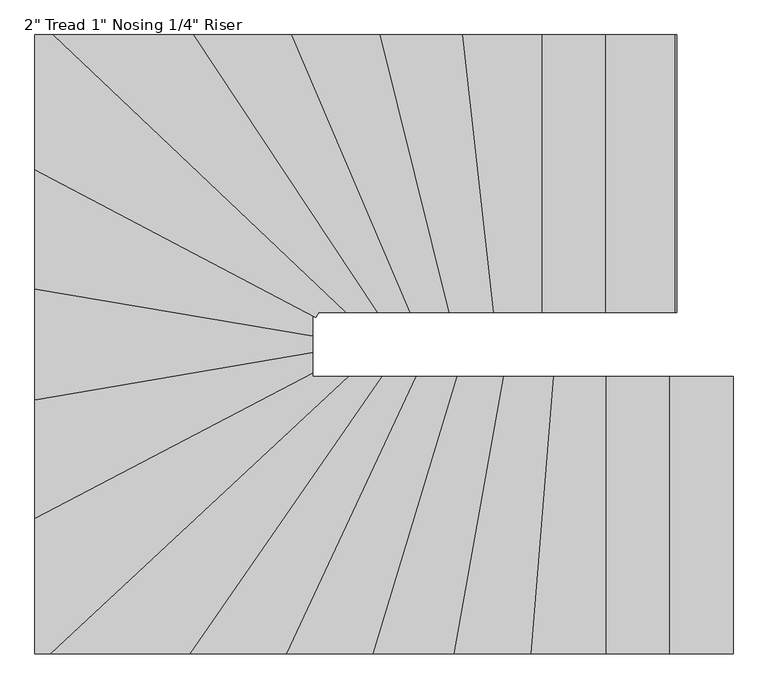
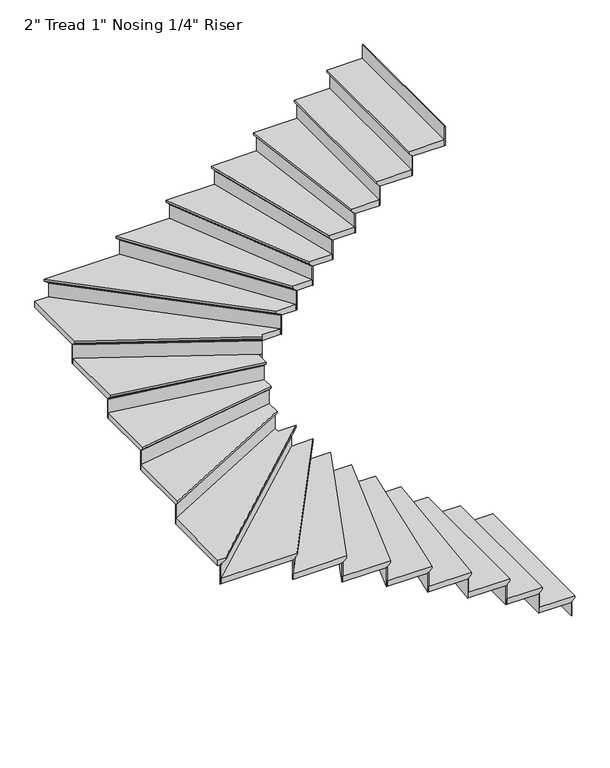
"""IFC4 building model written with IfcOpenShell, lengths in millimetres: stair flight geometry."""

from ifc_helpers import new_model, si_unit, origin, place, context, project, spatial, faceted_brep, source, transform, mapped, element, save


def stair_flight_de9e9dea(model_context):
    return source(origin(), model_context, "Body", "Brep", [
        faceted_brep([(10997.6353862, 7784.3648319, 155.1214286), (10997.6353862, 7784.3648319, 174.1714286), (10997.6353862, 6565.1648319, 174.1714286), (10997.6353862, 6565.1648319, 155.1214286), (10972.2353862, 7784.3648319, 129.7214286), (10972.2353862, 6565.1648319, 129.7214286), (10692.8353862, 7784.3648319, 174.1714286), (10692.8353862, 6565.1648319, 174.1714286), (10972.2353862, 6565.1648319, 123.3714286), (10692.8353862, 6565.1648319, 123.3714286), (10692.8353862, 7784.3648319, 123.3714286), (10972.2353862, 7784.3648319, 123.3714286)], [[[0, 1, 2, 3]], [[4, 0, 3, 5]], [[2, 1, 6, 7]], [[8, 9, 10, 11]], [[2, 7, 9, 8, 5, 3]], [[8, 11, 4, 5]], [[6, 1, 0, 4, 11, 10]], [[7, 6, 10, 9]]]),
        faceted_brep([(10972.2353862, 7784.3648319, 123.3714286), (10972.2353862, 7784.3648319, 0.0), (10965.8853862, 7784.3648319, 0.0), (10965.8853862, 7784.3648319, 123.3714286), (10972.2353862, 6565.1648319, 123.3714286), (10965.8853862, 6565.1648319, 123.3714286), (10965.8853862, 6565.1648319, 0.0), (10972.2353862, 6565.1648319, 0.0)], [[[0, 1, 2, 3]], [[4, 5, 6, 7]], [[1, 0, 4, 7]], [[2, 1, 7, 6]], [[3, 2, 6, 5]], [[0, 3, 5, 4]]]),
        faceted_brep([(10692.8353862, 7784.3648319, 297.5428571), (10692.8353862, 7784.3648319, 123.3714286), (10686.4853862, 7784.3648319, 123.3714286), (10686.4853862, 7784.3648319, 297.5428571), (10692.8353862, 6565.1648319, 297.5428571), (10686.4853862, 6565.1648319, 297.5428571), (10686.4853862, 6565.1648319, 123.3714286), (10692.8353862, 6565.1648319, 123.3714286)], [[[0, 1, 2, 3]], [[4, 5, 6, 7]], [[1, 0, 4, 7]], [[2, 1, 7, 6]], [[3, 2, 6, 5]], [[0, 3, 5, 4]]]),
        faceted_brep([(10718.2353862, 6565.1648319, 348.3428571), (10718.2353862, 7784.3648319, 348.3428571), (10413.4353862, 7784.3648319, 348.3428571), (10413.4353862, 6565.1648319, 348.3428571), (10692.8353862, 6565.1648319, 297.5428571), (10413.4353862, 6565.1648319, 297.5428571), (10413.4353862, 7784.3648319, 297.5428571), (10692.8353862, 7784.3648319, 297.5428571), (10692.8353862, 6565.1648319, 303.8928571), (10718.2353862, 6565.1648319, 329.2928571), (10692.8353862, 7784.3648319, 303.8928571), (10718.2353862, 7784.3648319, 329.2928571)], [[[0, 1, 2, 3]], [[4, 5, 6, 7]], [[0, 3, 5, 4, 8, 9]], [[4, 7, 10, 8]], [[2, 1, 11, 10, 7, 6]], [[3, 2, 6, 5]], [[11, 1, 0, 9]], [[10, 11, 9, 8]]]),
        faceted_brep([(10413.4353862, 7784.3648319, 471.7142857), (10413.4353862, 7784.3648319, 297.5428571), (10407.0853862, 7784.3648319, 297.5428571), (10407.0853862, 7784.3648319, 471.7142857), (10413.4353862, 6565.1648319, 471.7142857), (10407.0853862, 6565.1648319, 471.7142857), (10407.0853862, 6565.1648319, 297.5428571), (10413.4353862, 6565.1648319, 297.5428571)], [[[0, 1, 2, 3]], [[4, 5, 6, 7]], [[1, 0, 4, 7]], [[2, 1, 7, 6]], [[3, 2, 6, 5]], [[0, 3, 5, 4]]]),
        faceted_brep([(10438.8353862, 6565.1648319, 522.5142857), (10438.8353862, 7784.3648319, 522.5142857), (10182.7608997, 7784.3648319, 522.5142857), (10085.1473141, 6565.1648319, 522.5142857), (10413.4353862, 6565.1648319, 471.7142857), (10085.1473141, 6565.1648319, 471.7142857), (10182.7608997, 7784.3648319, 471.7142857), (10413.4353862, 7784.3648319, 471.7142857), (10413.4353862, 6565.1648319, 478.0642857), (10438.8353862, 6565.1648319, 503.4642857), (10413.4353862, 7784.3648319, 478.0642857), (10438.8353862, 7784.3648319, 503.4642857)], [[[0, 1, 2, 3]], [[4, 5, 6, 7]], [[0, 3, 5, 4, 8, 9]], [[4, 7, 10, 8]], [[2, 1, 11, 10, 7, 6]], [[3, 2, 6, 5]], [[11, 1, 0, 9]], [[10, 11, 9, 8]]]),
        faceted_brep([(10182.7608997, 7784.3648319, 645.8857143), (10182.7608997, 7784.3648319, 471.7142857), (10176.3905799, 7784.3648319, 471.7142857), (10176.3905799, 7784.3648319, 645.8857143), (10085.1473141, 6565.1648319, 645.8857143), (10078.7769943, 6565.1648319, 645.8857143), (10078.7769943, 6565.1648319, 471.7142857), (10085.1473141, 6565.1648319, 471.7142857)], [[[0, 1, 2, 3]], [[4, 5, 6, 7]], [[1, 0, 4, 7]], [[2, 1, 7, 6]], [[3, 2, 6, 5]], [[0, 3, 5, 4]]]),
        faceted_brep([(10110.6285934, 6565.1648319, 696.6857143), (10208.242179, 7784.3648319, 696.6857143), (9963.2617895, 7784.3648319, 696.6857143), (9745.2028636, 6565.1648319, 696.6857143), (10085.1473141, 6565.1648319, 645.8857143), (9745.2028636, 6565.1648319, 645.8857143), (9963.2617895, 7784.3648319, 645.8857143), (10182.7608997, 7784.3648319, 645.8857143), (10085.1473141, 6565.1648319, 652.2357143), (10110.6285934, 6565.1648319, 677.6357143), (10182.7608997, 7784.3648319, 652.2357143), (10208.242179, 7784.3648319, 677.6357143)], [[[0, 1, 2, 3]], [[4, 5, 6, 7]], [[0, 3, 5, 4, 8, 9]], [[4, 7, 10, 8]], [[2, 1, 11, 10, 7, 6]], [[3, 2, 6, 5]], [[11, 1, 0, 9]], [[10, 11, 9, 8]]]),
        faceted_brep([(9963.2617895, 7784.3648319, 820.0571429), (9963.2617895, 7784.3648319, 645.8857143), (9956.8110245, 7784.3648319, 645.8857143), (9956.8110245, 7784.3648319, 820.0571429), (9745.2028636, 6565.1648319, 820.0571429), (9738.7520987, 6565.1648319, 820.0571429), (9738.7520987, 6565.1648319, 645.8857143), (9745.2028636, 6565.1648319, 645.8857143)], [[[0, 1, 2, 3]], [[4, 5, 6, 7]], [[1, 0, 4, 7]], [[2, 1, 7, 6]], [[3, 2, 6, 5]], [[0, 3, 5, 4]]]),
        faceted_brep([(9771.0059233, 6565.1648319, 870.8571429), (9989.0648491, 7784.3648319, 870.8571429), (9759.2927327, 7784.3648319, 870.8571429), (9388.885316, 6565.1648319, 870.8571429), (9745.2028636, 6565.1648319, 820.0571429), (9388.885316, 6565.1648319, 820.0571429), (9759.2927327, 7784.3648319, 820.0571429), (9963.2617895, 7784.3648319, 820.0571429), (9745.2028636, 6565.1648319, 826.4071429), (9771.0059233, 6565.1648319, 851.8071429), (9963.2617895, 7784.3648319, 826.4071429), (9989.0648491, 7784.3648319, 851.8071429)], [[[0, 1, 2, 3]], [[4, 5, 6, 7]], [[0, 3, 5, 4, 8, 9]], [[4, 7, 10, 8]], [[2, 1, 11, 10, 7, 6]], [[3, 2, 6, 5]], [[11, 1, 0, 9]], [[10, 11, 9, 8]]]),
        faceted_brep([(9759.2927327, 7784.3648319, 994.2285714), (9759.2927327, 7784.3648319, 820.0571429), (9752.6561422, 7784.3648319, 820.0571429), (9752.6561422, 7784.3648319, 994.2285714), (9388.885316, 6565.1648319, 994.2285714), (9382.2487255, 6565.1648319, 994.2285714), (9382.2487255, 6565.1648319, 820.0571429), (9388.885316, 6565.1648319, 820.0571429)], [[[0, 1, 2, 3]], [[4, 5, 6, 7]], [[1, 0, 4, 7]], [[2, 1, 7, 6]], [[3, 2, 6, 5]], [[0, 3, 5, 4]]]),
        faceted_brep([(9415.4316779, 6565.1648319, 1045.0285714), (9785.8390946, 7784.3648319, 1045.0285714), (9577.837832, 7784.3648319, 1045.0285714), (9008.5681747, 6565.1648319, 1045.0285714), (9388.885316, 6565.1648319, 994.2285714), (9008.5681747, 6565.1648319, 994.2285714), (9577.837832, 7784.3648319, 994.2285714), (9759.2927327, 7784.3648319, 994.2285714), (9388.885316, 6565.1648319, 1000.5785714), (9415.4316779, 6565.1648319, 1025.9785714), (9759.2927327, 7784.3648319, 1000.5785714), (9785.8390946, 7784.3648319, 1025.9785714)], [[[0, 1, 2, 3]], [[4, 5, 6, 7]], [[0, 3, 5, 4, 8, 9]], [[4, 7, 10, 8]], [[2, 1, 11, 10, 7, 6]], [[3, 2, 6, 5]], [[11, 1, 0, 9]], [[10, 11, 9, 8]]]),
        faceted_brep([(9577.837832, 7784.3648319, 1168.4), (9577.837832, 7784.3648319, 994.2285714), (9570.8297363, 7784.3648319, 994.2285714), (9570.8297363, 7784.3648319, 1168.4), (9008.5681747, 6565.1648319, 1168.4), (9001.560079, 6565.1648319, 1168.4), (9001.560079, 6565.1648319, 994.2285714), (9008.5681747, 6565.1648319, 994.2285714)], [[[0, 1, 2, 3]], [[4, 5, 6, 7]], [[1, 0, 4, 7]], [[2, 1, 7, 6]], [[3, 2, 6, 5]], [[0, 3, 5, 4]]]),
        faceted_brep([(9036.6005575, 6565.1648319, 1219.2), (9605.8702149, 7784.3648319, 1219.2), (9426.0142761, 7784.3648319, 1219.2), (8582.0846729, 6565.1648319, 1219.2), (9008.5681747, 6565.1648319, 1168.4), (8582.0846729, 6565.1648319, 1168.4), (9426.0142761, 7784.3648319, 1168.4), (9577.837832, 7784.3648319, 1168.4), (9008.5681747, 6565.1648319, 1174.75), (9036.6005575, 6565.1648319, 1200.15), (9577.837832, 7784.3648319, 1174.75), (9605.8702149, 7784.3648319, 1200.15)], [[[0, 1, 2, 3]], [[4, 5, 6, 7]], [[0, 3, 5, 4, 8, 9]], [[4, 7, 10, 8]], [[2, 1, 11, 10, 7, 6]], [[3, 2, 6, 5]], [[11, 1, 0, 9]], [[10, 11, 9, 8]]]),
        faceted_brep([(9426.0142761, 7784.3648319, 1342.5714286), (9426.0142761, 7784.3648319, 1168.4), (9418.2914121, 7784.3648319, 1168.4), (9418.2914121, 7784.3648319, 1342.5714286), (8582.0846729, 6565.1648319, 1342.5714286), (8574.361809, 6565.1648319, 1342.5714286), (8574.361809, 6565.1648319, 1168.4), (8582.0846729, 6565.1648319, 1168.4)], [[[0, 1, 2, 3]], [[4, 5, 6, 7]], [[1, 0, 4, 7]], [[2, 1, 7, 6]], [[3, 2, 6, 5]], [[0, 3, 5, 4]]]),
        faceted_brep([(8612.9761286, 6565.1648319, 1393.3714286), (9456.9057318, 7784.3648319, 1393.3714286), (9271.4254934, 7784.3648319, 1393.3714286), (7963.1121527, 6565.1648319, 1393.3714286), (8582.0846729, 6565.1648319, 1342.5714286), (7963.1121527, 6565.1648319, 1342.5714286), (9271.4254934, 7784.3648319, 1342.5714286), (9426.0142761, 7784.3648319, 1342.5714286), (8582.0846729, 6565.1648319, 1348.9214286), (8612.9761286, 6565.1648319, 1374.3214286), (9426.0142761, 7784.3648319, 1348.9214286), (9456.9057318, 7784.3648319, 1374.3214286)], [[[0, 1, 2, 3]], [[4, 5, 6, 7]], [[0, 3, 5, 4, 8, 9]], [[4, 7, 10, 8]], [[2, 1, 11, 10, 7, 6]], [[3, 2, 6, 5]], [[11, 1, 0, 9]], [[10, 11, 9, 8]]]),
        faceted_brep([(9271.4254934, 7784.3648319, 1516.7428571), (9271.4254934, 7784.3648319, 1342.5714286), (9262.1112626, 7784.3648319, 1342.5714286), (9262.1112626, 7784.3648319, 1516.7428571), (7963.1121527, 6565.1648319, 1516.7428571), (7953.7979219, 6565.1648319, 1516.7428571), (7953.7979219, 6565.1648319, 1342.5714286), (7963.1121527, 6565.1648319, 1342.5714286)], [[[0, 1, 2, 3]], [[4, 5, 6, 7]], [[1, 0, 4, 7]], [[2, 1, 7, 6]], [[3, 2, 6, 5]], [[0, 3, 5, 4]]]),
        faceted_brep([(7934.0381388, 7188.0161586, 1567.5428571), (7934.0381388, 6565.1648319, 1567.5428571), (8000.3690757, 6565.1648319, 1567.5428571), (9308.6824164, 7784.3648319, 1567.5428571), (9153.2381388, 7784.3648319, 1567.5428571), (9153.2381388, 7827.0215213, 1567.5428571), (7934.0381388, 6565.1648319, 1516.7428571), (7934.0381388, 7188.0161586, 1516.7428571), (9153.2381388, 7827.0215213, 1516.7428571), (9153.2381388, 7784.3648319, 1516.7428571), (9271.4254934, 7784.3648319, 1516.7428571), (7963.1121527, 6565.1648319, 1516.7428571), (7963.1121527, 6565.1648319, 1523.0928571), (8000.3690757, 6565.1648319, 1548.4928571), (9271.4254934, 7784.3648319, 1523.0928571), (9308.6824164, 7784.3648319, 1548.4928571)], [[[0, 1, 2, 3, 4, 5]], [[6, 7, 8, 9, 10, 11]], [[1, 0, 7, 6]], [[2, 1, 6, 11, 12, 13]], [[11, 10, 14, 12]], [[4, 3, 15, 14, 10, 9]], [[5, 4, 9, 8]], [[0, 5, 8, 7]], [[15, 3, 2, 13]], [[14, 15, 13, 12]]]),
        faceted_brep([(9153.2381388, 7827.0215213, 1690.9142857), (9153.2381388, 7827.0215213, 1516.7428571), (9153.2381388, 7834.190838, 1516.7428571), (9153.2381388, 7834.190838, 1690.9142857), (7934.0381388, 7188.0161586, 1690.9142857), (7934.0381388, 7195.1854753, 1690.9142857), (7934.0381388, 7195.1854753, 1516.7428571), (7934.0381388, 7188.0161586, 1516.7428571)], [[[0, 1, 2, 3]], [[4, 5, 6, 7]], [[1, 0, 4, 7]], [[2, 1, 7, 6]], [[3, 2, 6, 5]], [[0, 3, 5, 4]]]),
        faceted_brep([(7934.0381388, 7159.3388919, 1741.7142857), (9153.2381388, 7798.3442545, 1741.7142857), (9153.2381388, 7913.8297228, 1741.7142857), (7934.0381388, 7706.4297228, 1741.7142857), (7934.0381388, 7188.0161586, 1690.9142857), (7934.0381388, 7706.4297228, 1690.9142857), (9153.2381388, 7913.8297228, 1690.9142857), (9153.2381388, 7827.0215213, 1690.9142857), (7934.0381388, 7188.0161586, 1697.2642857), (7934.0381388, 7159.3388919, 1722.6642857), (9153.2381388, 7827.0215213, 1697.2642857), (9153.2381388, 7798.3442545, 1722.6642857)], [[[0, 1, 2, 3]], [[4, 5, 6, 7]], [[0, 3, 5, 4, 8, 9]], [[4, 7, 10, 8]], [[2, 1, 11, 10, 7, 6]], [[3, 2, 6, 5]], [[11, 1, 0, 9]], [[10, 11, 9, 8]]]),
        faceted_brep([(9153.2381388, 7913.8297228, 1865.0857143), (9153.2381388, 7913.8297228, 1690.9142857), (9153.2381388, 7920.2709455, 1690.9142857), (9153.2381388, 7920.2709455, 1865.0857143), (7934.0381388, 7706.4297228, 1865.0857143), (7934.0381388, 7712.8709455, 1865.0857143), (7934.0381388, 7712.8709455, 1690.9142857), (7934.0381388, 7706.4297228, 1690.9142857)], [[[0, 1, 2, 3]], [[4, 5, 6, 7]], [[1, 0, 4, 7]], [[2, 1, 7, 6]], [[3, 2, 6, 5]], [[0, 3, 5, 4]]]),
        faceted_brep([(7934.0381388, 7680.6648319, 1915.8857143), (9153.2381388, 7888.0648319, 1915.8857143), (9153.2381388, 7985.8297228, 1915.8857143), (7934.0381388, 8193.2297228, 1915.8857143), (7934.0381388, 7706.4297228, 1865.0857143), (7934.0381388, 8193.2297228, 1865.0857143), (9153.2381388, 7985.8297228, 1865.0857143), (9153.2381388, 7913.8297228, 1865.0857143), (7934.0381388, 7706.4297228, 1871.4357143), (7934.0381388, 7680.6648319, 1896.8357143), (9153.2381388, 7913.8297228, 1871.4357143), (9153.2381388, 7888.0648319, 1896.8357143)], [[[0, 1, 2, 3]], [[4, 5, 6, 7]], [[0, 3, 5, 4, 8, 9]], [[4, 7, 10, 8]], [[2, 1, 11, 10, 7, 6]], [[3, 2, 6, 5]], [[11, 1, 0, 9]], [[10, 11, 9, 8]]]),
        faceted_brep([(9153.2381388, 7985.8297228, 2039.2571429), (9153.2381388, 7985.8297228, 1865.0857143), (9153.2381388, 7992.2709455, 1865.0857143), (9153.2381388, 7992.2709455, 2039.2571429), (7934.0381388, 8193.2297228, 2039.2571429), (7934.0381388, 8199.6709455, 2039.2571429), (7934.0381388, 8199.6709455, 1865.0857143), (7934.0381388, 8193.2297228, 1865.0857143)], [[[0, 1, 2, 3]], [[4, 5, 6, 7]], [[1, 0, 4, 7]], [[2, 1, 7, 6]], [[3, 2, 6, 5]], [[0, 3, 5, 4]]]),
        faceted_brep([(7934.0381388, 8167.4648319, 2090.0571429), (9153.2381388, 7960.0648319, 2090.0571429), (9153.2381388, 8063.7648319, 2090.0571429), (9178.6333847, 8063.7648319, 2090.0571429), (7934.0381388, 8719.1691919, 2090.0571429), (7934.0381388, 8193.2297228, 2039.2571429), (7934.0381388, 8719.1691919, 2039.2571429), (9178.6333847, 8063.7648319, 2039.2571429), (9153.2381388, 8063.7648319, 2039.2571429), (9153.2381388, 7985.8297228, 2039.2571429), (7934.0381388, 8193.2297228, 2045.6071429), (7934.0381388, 8167.4648319, 2071.0071429), (9153.2381388, 7985.8297228, 2045.6071429), (9153.2381388, 7960.0648319, 2071.0071429)], [[[0, 1, 2, 3, 4]], [[5, 6, 7, 8, 9]], [[0, 4, 6, 5, 10, 11]], [[5, 9, 12, 10]], [[2, 1, 13, 12, 9, 8]], [[3, 2, 8, 7]], [[4, 3, 7, 6]], [[13, 1, 0, 11]], [[12, 13, 11, 10]]]),
        faceted_brep([(9178.6333847, 8063.7648319, 2213.4285714), (9178.6333847, 8063.7648319, 2039.2571429), (9181.5921267, 8069.3834034, 2039.2571429), (9181.5921267, 8069.3834034, 2213.4285714), (7934.0381388, 8719.1691919, 2213.4285714), (7934.0381388, 8726.3458382, 2213.4285714), (7934.0381388, 8726.3458382, 2039.2571429), (7934.0381388, 8719.1691919, 2039.2571429)], [[[0, 1, 2, 3]], [[4, 5, 6, 7]], [[1, 0, 4, 7]], [[2, 1, 7, 6]], [[3, 2, 6, 5]], [[0, 3, 5, 4]]]),
        faceted_brep([(8050.992714, 9282.9648319, 2264.2285714), (7934.0381388, 9282.9648319, 2264.2285714), (7934.0381388, 8690.462607, 2264.2285714), (9166.7984166, 8041.2905459, 2264.2285714), (9178.6333847, 8063.7648319, 2264.2285714), (9336.4782367, 8063.7648319, 2264.2285714), (7934.0381388, 9282.9648319, 2213.4285714), (8050.992714, 9282.9648319, 2213.4285714), (9336.4782367, 8063.7648319, 2213.4285714), (9178.6333847, 8063.7648319, 2213.4285714), (7934.0381388, 8719.1691919, 2213.4285714), (7934.0381388, 8719.1691919, 2219.7785714), (7934.0381388, 8690.462607, 2245.1785714), (9178.6333847, 8063.7648319, 2219.7785714), (9166.7984166, 8041.2905459, 2245.1785714)], [[[0, 1, 2, 3, 4, 5]], [[6, 7, 8, 9, 10]], [[1, 0, 7, 6]], [[2, 1, 6, 10, 11, 12]], [[10, 9, 13, 11]], [[5, 4, 13, 9, 8]], [[0, 5, 8, 7]], [[3, 14, 13, 4]], [[14, 3, 2, 12]], [[13, 14, 12, 11]]]),
        faceted_brep([(9336.4782367, 8063.7648319, 2387.6), (9336.4782367, 8063.7648319, 2213.4285714), (9345.705842, 8063.7648319, 2213.4285714), (9345.705842, 8063.7648319, 2387.6), (8050.992714, 9282.9648319, 2387.6), (8060.2203193, 9282.9648319, 2387.6), (8060.2203193, 9282.9648319, 2213.4285714), (8050.992714, 9282.9648319, 2213.4285714)], [[[0, 1, 2, 3]], [[4, 5, 6, 7]], [[1, 0, 4, 7]], [[2, 1, 7, 6]], [[3, 2, 6, 5]], [[0, 3, 5, 4]]]),
        faceted_brep([(8014.0822927, 9282.9648319, 2438.4), (9299.5678154, 8063.7648319, 2438.4), (9469.9182962, 8063.7648319, 2438.4), (8661.5123918, 9282.9648319, 2438.4), (8050.992714, 9282.9648319, 2387.6), (8661.5123918, 9282.9648319, 2387.6), (9469.9182962, 8063.7648319, 2387.6), (9336.4782367, 8063.7648319, 2387.6), (8050.992714, 9282.9648319, 2393.95), (8014.0822927, 9282.9648319, 2419.35), (9336.4782367, 8063.7648319, 2393.95), (9299.5678154, 8063.7648319, 2419.35)], [[[0, 1, 2, 3]], [[4, 5, 6, 7]], [[0, 3, 5, 4, 8, 9]], [[4, 7, 10, 8]], [[2, 1, 11, 10, 7, 6]], [[3, 2, 6, 5]], [[11, 1, 0, 9]], [[10, 11, 9, 8]]]),
        faceted_brep([(9469.9182962, 8063.7648319, 2561.7714286), (9469.9182962, 8063.7648319, 2387.6), (9477.5373754, 8063.7648319, 2387.6), (9477.5373754, 8063.7648319, 2561.7714286), (8661.5123918, 9282.9648319, 2561.7714286), (8669.1314709, 9282.9648319, 2561.7714286), (8669.1314709, 9282.9648319, 2387.6), (8661.5123918, 9282.9648319, 2387.6)], [[[0, 1, 2, 3]], [[4, 5, 6, 7]], [[1, 0, 4, 7]], [[2, 1, 7, 6]], [[3, 2, 6, 5]], [[0, 3, 5, 4]]]),
        faceted_brep([(8631.0360751, 9282.9648319, 2612.5714286), (9439.4419795, 8063.7648319, 2612.5714286), (9608.7772096, 8063.7648319, 2612.5714286), (9088.9188179, 9282.9648319, 2612.5714286), (8661.5123918, 9282.9648319, 2561.7714286), (9088.9188179, 9282.9648319, 2561.7714286), (9608.7772096, 8063.7648319, 2561.7714286), (9469.9182962, 8063.7648319, 2561.7714286), (8661.5123918, 9282.9648319, 2568.1214286), (8631.0360751, 9282.9648319, 2593.5214286), (9469.9182962, 8063.7648319, 2568.1214286), (9439.4419795, 8063.7648319, 2593.5214286)], [[[0, 1, 2, 3]], [[4, 5, 6, 7]], [[0, 3, 5, 4, 8, 9]], [[4, 7, 10, 8]], [[2, 1, 11, 10, 7, 6]], [[3, 2, 6, 5]], [[11, 1, 0, 9]], [[10, 11, 9, 8]]]),
        faceted_brep([(9608.7772096, 8063.7648319, 2735.9428571), (9608.7772096, 8063.7648319, 2561.7714286), (9615.6803664, 8063.7648319, 2561.7714286), (9615.6803664, 8063.7648319, 2735.9428571), (9088.9188179, 9282.9648319, 2735.9428571), (9095.8219748, 9282.9648319, 2735.9428571), (9095.8219748, 9282.9648319, 2561.7714286), (9088.9188179, 9282.9648319, 2561.7714286)], [[[0, 1, 2, 3]], [[4, 5, 6, 7]], [[1, 0, 4, 7]], [[2, 1, 7, 6]], [[3, 2, 6, 5]], [[0, 3, 5, 4]]]),
        faceted_brep([(9061.3061904, 9282.9648319, 2786.7428571), (9581.164582, 8063.7648319, 2786.7428571), (9779.1535317, 8063.7648319, 2786.7428571), (9474.4794103, 9282.9648319, 2786.7428571), (9088.9188179, 9282.9648319, 2735.9428571), (9474.4794103, 9282.9648319, 2735.9428571), (9779.1535317, 8063.7648319, 2735.9428571), (9608.7772096, 8063.7648319, 2735.9428571), (9088.9188179, 9282.9648319, 2742.2928571), (9061.3061904, 9282.9648319, 2767.6928571), (9608.7772096, 8063.7648319, 2742.2928571), (9581.164582, 8063.7648319, 2767.6928571)], [[[0, 1, 2, 3]], [[4, 5, 6, 7]], [[0, 3, 5, 4, 8, 9]], [[4, 7, 10, 8]], [[2, 1, 11, 10, 7, 6]], [[3, 2, 6, 5]], [[11, 1, 0, 9]], [[10, 11, 9, 8]]]),
        faceted_brep([(9779.1535317, 8063.7648319, 2910.1142857), (9779.1535317, 8063.7648319, 2735.9428571), (9785.6988029, 8063.7648319, 2735.9428571), (9785.6988029, 8063.7648319, 2910.1142857), (9474.4794103, 9282.9648319, 2910.1142857), (9481.0246815, 9282.9648319, 2910.1142857), (9481.0246815, 9282.9648319, 2735.9428571), (9474.4794103, 9282.9648319, 2735.9428571)], [[[0, 1, 2, 3]], [[4, 5, 6, 7]], [[1, 0, 4, 7]], [[2, 1, 7, 6]], [[3, 2, 6, 5]], [[0, 3, 5, 4]]]),
        faceted_brep([(9448.2983255, 9282.9648319, 2960.9142857), (9752.9724469, 8063.7648319, 2960.9142857), (9973.546149, 8063.7648319, 2960.9142857), (9837.6392705, 9282.9648319, 2960.9142857), (9474.4794103, 9282.9648319, 2910.1142857), (9837.6392705, 9282.9648319, 2910.1142857), (9973.546149, 8063.7648319, 2910.1142857), (9779.1535317, 8063.7648319, 2910.1142857), (9474.4794103, 9282.9648319, 2916.4642857), (9448.2983255, 9282.9648319, 2941.8642857), (9779.1535317, 8063.7648319, 2916.4642857), (9752.9724469, 8063.7648319, 2941.8642857)], [[[0, 1, 2, 3]], [[4, 5, 6, 7]], [[0, 3, 5, 4, 8, 9]], [[4, 7, 10, 8]], [[2, 1, 11, 10, 7, 6]], [[3, 2, 6, 5]], [[11, 1, 0, 9]], [[10, 11, 9, 8]]]),
        faceted_brep([(9973.546149, 8063.7648319, 3084.2857143), (9973.546149, 8063.7648319, 2910.1142857), (9979.9354799, 8063.7648319, 2910.1142857), (9979.9354799, 8063.7648319, 3084.2857143), (9837.6392705, 9282.9648319, 3084.2857143), (9844.0286014, 9282.9648319, 3084.2857143), (9844.0286014, 9282.9648319, 2910.1142857), (9837.6392705, 9282.9648319, 2910.1142857)], [[[0, 1, 2, 3]], [[4, 5, 6, 7]], [[1, 0, 4, 7]], [[2, 1, 7, 6]], [[3, 2, 6, 5]], [[0, 3, 5, 4]]]),
        faceted_brep([(9812.0819469, 9282.9648319, 3135.0857143), (9947.9888255, 8063.7648319, 3135.0857143), (10184.8353862, 8063.7648319, 3135.0857143), (10184.8353862, 9282.9648319, 3135.0857143), (9837.6392705, 9282.9648319, 3084.2857143), (10184.8353862, 9282.9648319, 3084.2857143), (10184.8353862, 8063.7648319, 3084.2857143), (9973.546149, 8063.7648319, 3084.2857143), (9837.6392705, 9282.9648319, 3090.6357143), (9812.0819469, 9282.9648319, 3116.0357143), (9973.546149, 8063.7648319, 3090.6357143), (9947.9888255, 8063.7648319, 3116.0357143)], [[[0, 1, 2, 3]], [[4, 5, 6, 7]], [[0, 3, 5, 4, 8, 9]], [[4, 7, 10, 8]], [[2, 1, 11, 10, 7, 6]], [[3, 2, 6, 5]], [[11, 1, 0, 9]], [[10, 11, 9, 8]]]),
        faceted_brep([(10184.8353862, 8063.7648319, 3258.4571429), (10184.8353862, 8063.7648319, 3084.2857143), (10191.1853862, 8063.7648319, 3084.2857143), (10191.1853862, 8063.7648319, 3258.4571429), (10184.8353862, 9282.9648319, 3258.4571429), (10191.1853862, 9282.9648319, 3258.4571429), (10191.1853862, 9282.9648319, 3084.2857143), (10184.8353862, 9282.9648319, 3084.2857143)], [[[0, 1, 2, 3]], [[4, 5, 6, 7]], [[1, 0, 4, 7]], [[2, 1, 7, 6]], [[3, 2, 6, 5]], [[0, 3, 5, 4]]]),
        faceted_brep([(10159.4353862, 9282.9648319, 3309.2571429), (10159.4353862, 8063.7648319, 3309.2571429), (10464.2353862, 8063.7648319, 3309.2571429), (10464.2353862, 9282.9648319, 3309.2571429), (10184.8353862, 9282.9648319, 3258.4571429), (10464.2353862, 9282.9648319, 3258.4571429), (10464.2353862, 8063.7648319, 3258.4571429), (10184.8353862, 8063.7648319, 3258.4571429), (10184.8353862, 9282.9648319, 3264.8071429), (10159.4353862, 9282.9648319, 3290.2071429), (10184.8353862, 8063.7648319, 3264.8071429), (10159.4353862, 8063.7648319, 3290.2071429)], [[[0, 1, 2, 3]], [[4, 5, 6, 7]], [[0, 3, 5, 4, 8, 9]], [[4, 7, 10, 8]], [[2, 1, 11, 10, 7, 6]], [[3, 2, 6, 5]], [[11, 1, 0, 9]], [[10, 11, 9, 8]]]),
        faceted_brep([(10464.2353862, 8063.7648319, 3432.6285714), (10464.2353862, 8063.7648319, 3258.4571429), (10470.5853862, 8063.7648319, 3258.4571429), (10470.5853862, 8063.7648319, 3432.6285714), (10464.2353862, 9282.9648319, 3432.6285714), (10470.5853862, 9282.9648319, 3432.6285714), (10470.5853862, 9282.9648319, 3258.4571429), (10464.2353862, 9282.9648319, 3258.4571429)], [[[0, 1, 2, 3]], [[4, 5, 6, 7]], [[1, 0, 4, 7]], [[2, 1, 7, 6]], [[3, 2, 6, 5]], [[0, 3, 5, 4]]]),
        faceted_brep([(10743.6353862, 8063.7648319, 3606.8), (10743.6353862, 8063.7648319, 3432.6285714), (10749.9853862, 8063.7648319, 3432.6285714), (10749.9853862, 8063.7648319, 3606.8), (10743.6353862, 9282.9648319, 3606.8), (10749.9853862, 9282.9648319, 3606.8), (10749.9853862, 9282.9648319, 3432.6285714), (10743.6353862, 9282.9648319, 3432.6285714)], [[[0, 1, 2, 3]], [[4, 5, 6, 7]], [[1, 0, 4, 7]], [[2, 1, 7, 6]], [[3, 2, 6, 5]], [[0, 3, 5, 4]]]),
        faceted_brep([(10438.8353862, 9282.9648319, 3483.4285714), (10438.8353862, 8063.7648319, 3483.4285714), (10743.6353862, 8063.7648319, 3483.4285714), (10743.6353862, 9282.9648319, 3483.4285714), (10464.2353862, 9282.9648319, 3432.6285714), (10743.6353862, 9282.9648319, 3432.6285714), (10743.6353862, 8063.7648319, 3432.6285714), (10464.2353862, 8063.7648319, 3432.6285714), (10464.2353862, 9282.9648319, 3438.9785714), (10438.8353862, 9282.9648319, 3464.3785714), (10464.2353862, 8063.7648319, 3438.9785714), (10438.8353862, 8063.7648319, 3464.3785714)], [[[0, 1, 2, 3]], [[4, 5, 6, 7]], [[0, 3, 5, 4, 8, 9]], [[4, 7, 10, 8]], [[2, 1, 11, 10, 7, 6]], [[3, 2, 6, 5]], [[11, 1, 0, 9]], [[10, 11, 9, 8]]]),
    ])


if __name__ == "__main__":
    model = new_model("IFC4")
    model_context = context("Model", 3, world=origin())
    ifc_project = project(units=[si_unit("LENGTHUNIT", "METRE", prefix="MILLI")], contexts=[model_context])
    site = spatial("IfcSite", under=ifc_project)
    building = spatial("IfcBuilding", under=site)
    placement = place(None, origin())
    stair_flight_shape = stair_flight_de9e9dea(model_context)
    element("IfcStairFlight", 1, ObjectType="2\" Tread 1\" Nosing 1/4\" Riser", at=placement, inside=building, context=model_context, shape_type="MappedRepresentation", body=[
        mapped(stair_flight_shape, transform((0.0, 0.0, 0.0), x_axis=(1.0, 0.0, 0.0), y_axis=(0.0, 1.0, 0.0), z_axis=(0.0, 0.0, 1.0))),
    ])
    save(model, "model.ifc")
